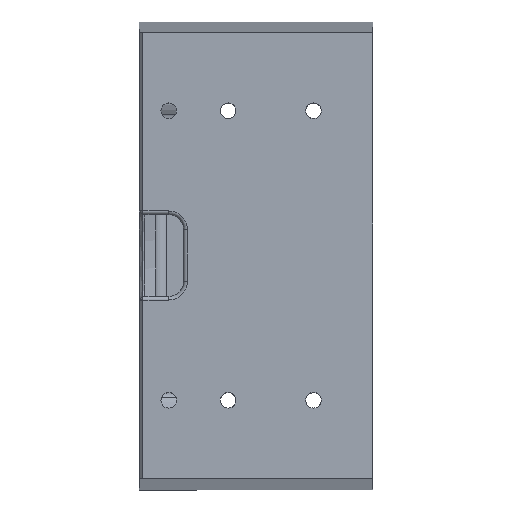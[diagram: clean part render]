
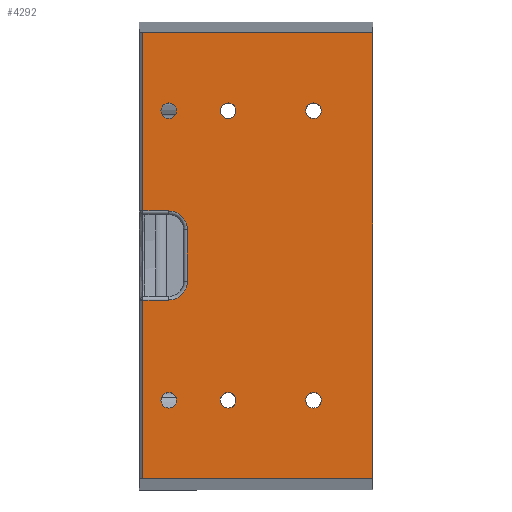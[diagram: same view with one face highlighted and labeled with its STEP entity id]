
A CAD part, top view. The second image highlights one B-rep face of the part: STEP entity #4292.
In plain terms, the highlighted planar face has unit normal (0, 0, 1).
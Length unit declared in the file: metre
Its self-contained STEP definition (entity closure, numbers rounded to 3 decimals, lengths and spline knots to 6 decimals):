
#73=PLANE('',#4639);
#237=CIRCLE('',#4640,0.0021);
#238=CIRCLE('',#4641,0.0021);
#239=CIRCLE('',#4642,0.0021);
#240=CIRCLE('',#4643,0.0021);
#241=CIRCLE('',#4644,0.0021);
#242=CIRCLE('',#4645,0.0021);
#243=CIRCLE('',#4646,0.005);
#244=CIRCLE('',#4647,0.005);
#633=ORIENTED_EDGE('',*,*,#1914,.T.);
#634=ORIENTED_EDGE('',*,*,#1915,.T.);
#635=ORIENTED_EDGE('',*,*,#1916,.T.);
#636=ORIENTED_EDGE('',*,*,#1917,.T.);
#637=ORIENTED_EDGE('',*,*,#1918,.T.);
#638=ORIENTED_EDGE('',*,*,#1919,.T.);
#639=ORIENTED_EDGE('',*,*,#1920,.T.);
#640=ORIENTED_EDGE('',*,*,#1921,.T.);
#641=ORIENTED_EDGE('',*,*,#1922,.T.);
#642=ORIENTED_EDGE('',*,*,#1923,.T.);
#643=ORIENTED_EDGE('',*,*,#1924,.T.);
#644=ORIENTED_EDGE('',*,*,#1925,.T.);
#645=ORIENTED_EDGE('',*,*,#1926,.T.);
#646=ORIENTED_EDGE('',*,*,#1927,.T.);
#647=ORIENTED_EDGE('',*,*,#1928,.F.);
#648=ORIENTED_EDGE('',*,*,#1895,.T.);
#1895=EDGE_CURVE('',#2536,#2535,#2894,.T.);
#1914=EDGE_CURVE('',#2552,#2552,#237,.T.);
#1915=EDGE_CURVE('',#2553,#2553,#238,.T.);
#1916=EDGE_CURVE('',#2554,#2554,#239,.T.);
#1917=EDGE_CURVE('',#2555,#2555,#240,.T.);
#1918=EDGE_CURVE('',#2556,#2556,#241,.T.);
#1919=EDGE_CURVE('',#2557,#2557,#242,.T.);
#1920=EDGE_CURVE('',#2535,#2558,#2904,.T.);
#1921=EDGE_CURVE('',#2558,#2559,#2905,.T.);
#1922=EDGE_CURVE('',#2559,#2560,#2906,.F.);
#1923=EDGE_CURVE('',#2560,#2561,#243,.F.);
#1924=EDGE_CURVE('',#2561,#2562,#2907,.T.);
#1925=EDGE_CURVE('',#2562,#2563,#244,.F.);
#1926=EDGE_CURVE('',#2563,#2564,#2908,.T.);
#1927=EDGE_CURVE('',#2564,#2565,#2909,.T.);
#1928=EDGE_CURVE('',#2536,#2565,#2910,.T.);
#2535=VERTEX_POINT('',#6918);
#2536=VERTEX_POINT('',#6920);
#2552=VERTEX_POINT('',#6974);
#2553=VERTEX_POINT('',#6976);
#2554=VERTEX_POINT('',#6978);
#2555=VERTEX_POINT('',#6980);
#2556=VERTEX_POINT('',#6982);
#2557=VERTEX_POINT('',#6984);
#2558=VERTEX_POINT('',#6986);
#2559=VERTEX_POINT('',#6988);
#2560=VERTEX_POINT('',#6990);
#2561=VERTEX_POINT('',#6992);
#2562=VERTEX_POINT('',#6994);
#2563=VERTEX_POINT('',#6996);
#2564=VERTEX_POINT('',#6998);
#2565=VERTEX_POINT('',#7000);
#2894=LINE('',#6919,#3169);
#2904=LINE('',#6985,#3179);
#2905=LINE('',#6987,#3180);
#2906=LINE('',#6989,#3181);
#2907=LINE('',#6993,#3182);
#2908=LINE('',#6997,#3183);
#2909=LINE('',#6999,#3184);
#2910=LINE('',#7001,#3185);
#3169=VECTOR('',#5340,1.);
#3179=VECTOR('',#5378,1.);
#3180=VECTOR('',#5379,1.);
#3181=VECTOR('',#5380,1.);
#3182=VECTOR('',#5383,1.);
#3183=VECTOR('',#5386,1.);
#3184=VECTOR('',#5387,1.);
#3185=VECTOR('',#5388,1.);
#3449=EDGE_LOOP('',(#633));
#3450=EDGE_LOOP('',(#634));
#3451=EDGE_LOOP('',(#635));
#3452=EDGE_LOOP('',(#636));
#3453=EDGE_LOOP('',(#637));
#3454=EDGE_LOOP('',(#638));
#3455=EDGE_LOOP('',(#639,#640,#641,#642,#643,#644,#645,#646,#647,#648));
#3813=FACE_BOUND('',#3449,.T.);
#3814=FACE_BOUND('',#3450,.T.);
#3815=FACE_BOUND('',#3451,.T.);
#3816=FACE_BOUND('',#3452,.T.);
#3817=FACE_BOUND('',#3453,.T.);
#3818=FACE_BOUND('',#3454,.T.);
#3819=FACE_BOUND('',#3455,.T.);
#4292=ADVANCED_FACE('',(#3813,#3814,#3815,#3816,#3817,#3818,#3819),#73,
 .T.);
#4639=AXIS2_PLACEMENT_3D('',#6972,#5364,#5365);
#4640=AXIS2_PLACEMENT_3D('',#6973,#5366,#5367);
#4641=AXIS2_PLACEMENT_3D('',#6975,#5368,#5369);
#4642=AXIS2_PLACEMENT_3D('',#6977,#5370,#5371);
#4643=AXIS2_PLACEMENT_3D('',#6979,#5372,#5373);
#4644=AXIS2_PLACEMENT_3D('',#6981,#5374,#5375);
#4645=AXIS2_PLACEMENT_3D('',#6983,#5376,#5377);
#4646=AXIS2_PLACEMENT_3D('',#6991,#5381,#5382);
#4647=AXIS2_PLACEMENT_3D('',#6995,#5384,#5385);
#5340=DIRECTION('',(0.,1.,0.));
#5364=DIRECTION('',(0.,0.,1.));
#5365=DIRECTION('',(0.,-1.,0.));
#5366=DIRECTION('',(0.,0.,-1.));
#5367=DIRECTION('',(-1.,0.,0.));
#5368=DIRECTION('',(0.,0.,-1.));
#5369=DIRECTION('',(-1.,0.,0.));
#5370=DIRECTION('',(0.,0.,-1.));
#5371=DIRECTION('',(-1.,0.,0.));
#5372=DIRECTION('',(0.,0.,-1.));
#5373=DIRECTION('',(-1.,0.,0.));
#5374=DIRECTION('',(0.,0.,-1.));
#5375=DIRECTION('',(-1.,0.,0.));
#5376=DIRECTION('',(0.,0.,-1.));
#5377=DIRECTION('',(-1.,0.,0.));
#5378=DIRECTION('',(-1.,0.,0.));
#5379=DIRECTION('',(0.,-1.,0.));
#5380=DIRECTION('',(-1.,0.,0.));
#5381=DIRECTION('',(0.,0.,1.));
#5382=DIRECTION('',(0.,-1.,0.));
#5383=DIRECTION('',(0.,-1.,0.));
#5384=DIRECTION('',(0.,0.,1.));
#5385=DIRECTION('',(0.,-1.,0.));
#5386=DIRECTION('',(-1.,0.,0.));
#5387=DIRECTION('',(0.,-1.,0.));
#5388=DIRECTION('',(-1.,0.,0.));
#6918=CARTESIAN_POINT('',(0.063,0.06,0.));
#6919=CARTESIAN_POINT('',(0.063,0.,0.));
#6920=CARTESIAN_POINT('',(0.063,-0.06,0.));
#6972=CARTESIAN_POINT('',(0.063002,0.,0.));
#6973=CARTESIAN_POINT('',(0.047,0.039,0.));
#6974=CARTESIAN_POINT('',(0.0449,0.039,0.));
#6975=CARTESIAN_POINT('',(0.008,-0.039,0.));
#6976=CARTESIAN_POINT('',(0.0059,-0.039,0.));
#6977=CARTESIAN_POINT('',(0.024,0.039,0.));
#6978=CARTESIAN_POINT('',(0.0219,0.039,0.));
#6979=CARTESIAN_POINT('',(0.008,0.039,0.));
#6980=CARTESIAN_POINT('',(0.0059,0.039,0.));
#6981=CARTESIAN_POINT('',(0.024,-0.039,0.));
#6982=CARTESIAN_POINT('',(0.0219,-0.039,0.));
#6983=CARTESIAN_POINT('',(0.047,-0.039,0.));
#6984=CARTESIAN_POINT('',(0.0449,-0.039,0.));
#6985=CARTESIAN_POINT('',(0.063002,0.06,0.));
#6986=CARTESIAN_POINT('',(0.001,0.06,0.));
#6987=CARTESIAN_POINT('',(0.001,0.012,0.));
#6988=CARTESIAN_POINT('',(0.001,0.012,0.));
#6989=CARTESIAN_POINT('',(0.008,0.012,0.));
#6990=CARTESIAN_POINT('',(0.008,0.012,0.));
#6991=CARTESIAN_POINT('',(0.008,0.007,0.));
#6992=CARTESIAN_POINT('',(0.013,0.007,0.));
#6993=CARTESIAN_POINT('',(0.013,0.,0.));
#6994=CARTESIAN_POINT('',(0.013,-0.007,0.));
#6995=CARTESIAN_POINT('',(0.008,-0.007,0.));
#6996=CARTESIAN_POINT('',(0.008,-0.012,0.));
#6997=CARTESIAN_POINT('',(0.063002,-0.012,0.));
#6998=CARTESIAN_POINT('',(0.001,-0.012,0.));
#6999=CARTESIAN_POINT('',(0.001,-0.06,0.));
#7000=CARTESIAN_POINT('',(0.001,-0.06,0.));
#7001=CARTESIAN_POINT('',(0.063002,-0.06,0.));
